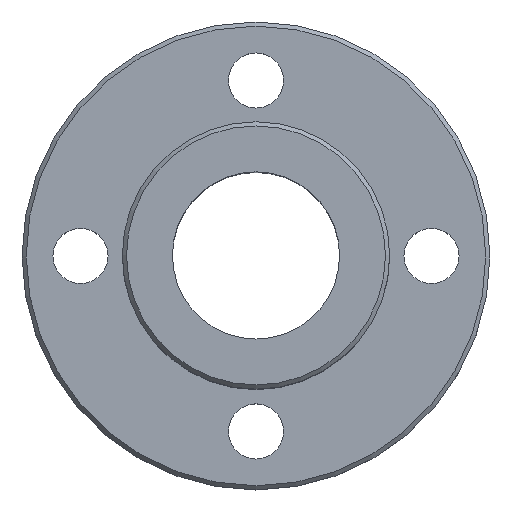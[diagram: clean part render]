
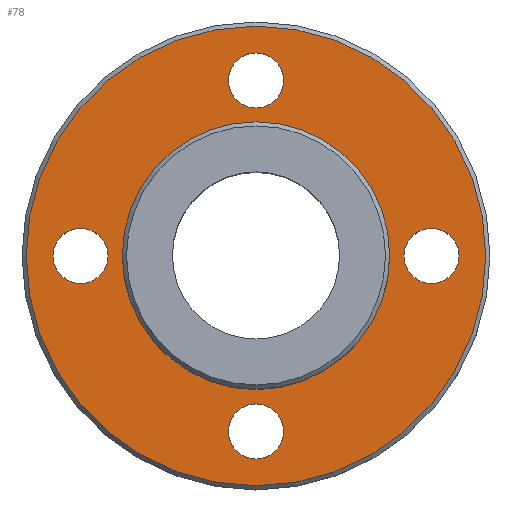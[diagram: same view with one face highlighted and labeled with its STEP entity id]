
A CAD part, top view. The second image highlights one B-rep face of the part: STEP entity #78.
In plain terms, the highlighted planar face has unit normal (0, 0, 1).
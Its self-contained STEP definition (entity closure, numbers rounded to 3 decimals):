
#78=ADVANCED_FACE('',(#102,#103,#104,#105,#106,#107),#108,.T.);
#102=FACE_BOUND('',#149,.T.);
#103=FACE_BOUND('',#150,.T.);
#104=FACE_OUTER_BOUND('',#151,.T.);
#105=FACE_BOUND('',#152,.T.);
#106=FACE_BOUND('',#153,.T.);
#107=FACE_BOUND('',#154,.T.);
#108=PLANE('',#155);
#149=EDGE_LOOP('',(#202));
#150=EDGE_LOOP('',(#203));
#151=EDGE_LOOP('',(#204));
#152=EDGE_LOOP('',(#205));
#153=EDGE_LOOP('',(#206));
#154=EDGE_LOOP('',(#207));
#155=AXIS2_PLACEMENT_3D('',#208,#209,#210);
#202=ORIENTED_EDGE('',*,*,#258,.T.);
#203=ORIENTED_EDGE('',*,*,#264,.T.);
#204=ORIENTED_EDGE('',*,*,#265,.T.);
#205=ORIENTED_EDGE('',*,*,#266,.T.);
#206=ORIENTED_EDGE('',*,*,#267,.T.);
#207=ORIENTED_EDGE('',*,*,#256,.T.);
#208=CARTESIAN_POINT('',(0.0,0.0,6.0));
#209=DIRECTION('',(0.0,0.0,1.0));
#210=DIRECTION('',(1.0,0.0,0.0));
#256=EDGE_CURVE('',#273,#273,#274,.F.);
#258=EDGE_CURVE('',#277,#277,#278,.F.);
#264=EDGE_CURVE('',#289,#289,#290,.F.);
#265=EDGE_CURVE('',#291,#291,#292,.T.);
#266=EDGE_CURVE('',#293,#293,#294,.F.);
#267=EDGE_CURVE('',#295,#295,#296,.F.);
#273=VERTEX_POINT('',#307);
#274=CIRCLE('',#308,3.3);
#277=VERTEX_POINT('',#311);
#278=CIRCLE('',#312,3.3);
#289=VERTEX_POINT('',#323);
#290=CIRCLE('',#324,3.3);
#291=VERTEX_POINT('',#325);
#292=CIRCLE('',#326,27.5);
#293=VERTEX_POINT('',#327);
#294=CIRCLE('',#328,16.0);
#295=VERTEX_POINT('',#329);
#296=CIRCLE('',#330,3.3);
#307=CARTESIAN_POINT('',(3.3,-21.0,6.0));
#308=AXIS2_PLACEMENT_3D('',#341,#342,#343);
#311=CARTESIAN_POINT('',(-17.7,0.,6.0));
#312=AXIS2_PLACEMENT_3D('',#347,#348,#349);
#323=CARTESIAN_POINT('',(24.3,0.,6.0));
#324=AXIS2_PLACEMENT_3D('',#365,#366,#367);
#325=CARTESIAN_POINT('',(27.5,0.0,6.0));
#326=AXIS2_PLACEMENT_3D('',#368,#369,#370);
#327=CARTESIAN_POINT('',(16.0,0.,6.0));
#328=AXIS2_PLACEMENT_3D('',#371,#372,#373);
#329=CARTESIAN_POINT('',(3.3,21.0,6.0));
#330=AXIS2_PLACEMENT_3D('',#374,#375,#376);
#341=CARTESIAN_POINT('',(0.,-21.0,6.0));
#342=DIRECTION('',(0.0,0.0,1.0));
#343=DIRECTION('',(1.0,0.0,0.0));
#347=CARTESIAN_POINT('',(-21.0,0.,6.0));
#348=DIRECTION('',(0.0,0.0,1.0));
#349=DIRECTION('',(1.0,0.0,0.0));
#365=CARTESIAN_POINT('',(21.0,0.0,6.0));
#366=DIRECTION('',(0.0,0.0,1.0));
#367=DIRECTION('',(1.0,0.0,0.0));
#368=CARTESIAN_POINT('',(0.0,0.0,6.0));
#369=DIRECTION('',(0.0,0.0,1.0));
#370=DIRECTION('',(1.0,0.0,0.0));
#371=CARTESIAN_POINT('',(0.0,0.0,6.0));
#372=DIRECTION('',(0.0,0.0,1.0));
#373=DIRECTION('',(1.0,0.0,0.0));
#374=CARTESIAN_POINT('',(0.,21.0,6.0));
#375=DIRECTION('',(0.0,0.0,1.0));
#376=DIRECTION('',(1.0,0.0,0.0));
